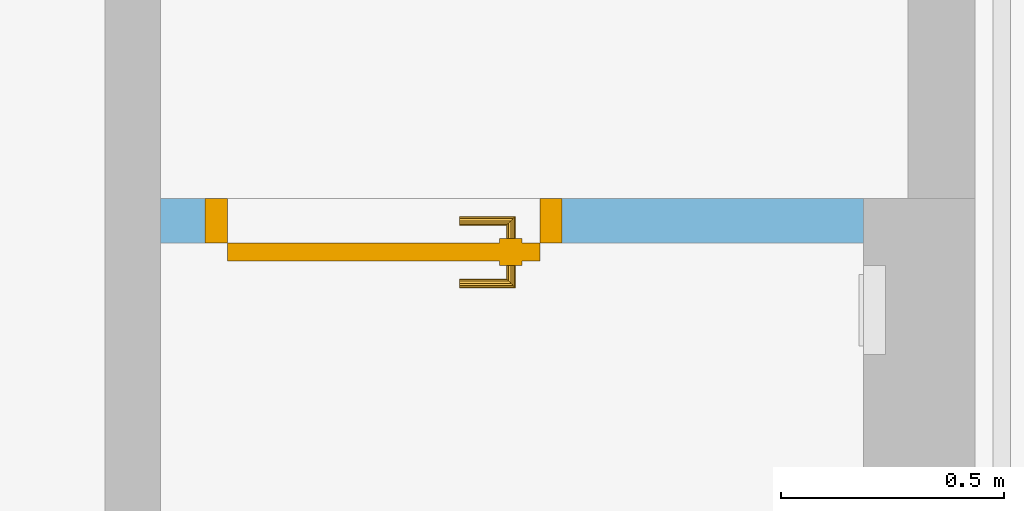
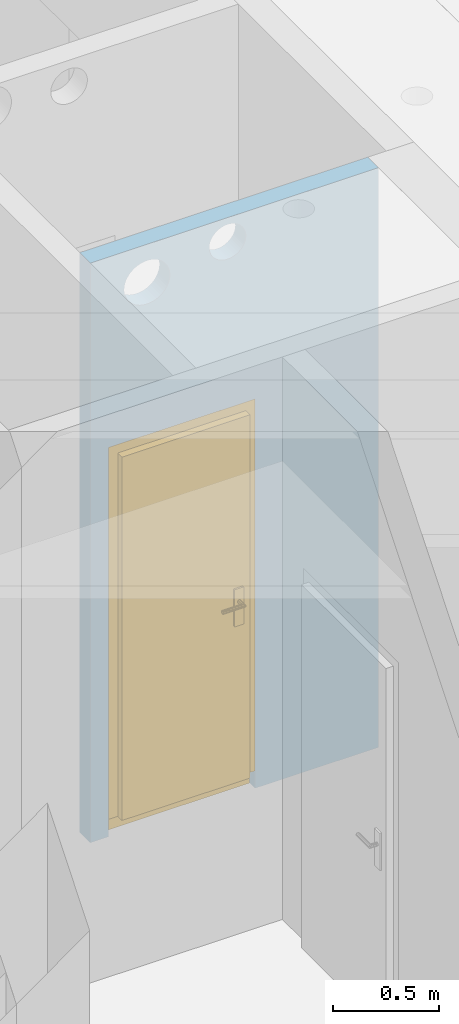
# One storey, part 74 of 140: 1 door, 3 openings, plus 1 element that does not belong to this part.
"""IFC4 building model written with IfcOpenShell, lengths in metres."""

from ifc_helpers import new_model, entity, si_unit, converted_unit, derived_unit, frame, frame_2d, origin, origin_with_axes, place, context, subcontext, project, spatial, polyline, rectangle, outline, extrude, closed_shell, open_shell, surface_model, source, transform, mapped, material, layer, layer_set, layer_usage, type_object, element, fill, save


model = new_model("IFC4")

# Units and contexts
model_context = context("Model", 3, precision=1e-05, world=origin())
body_context = subcontext(model_context, "Body", "Model", "MODEL_VIEW")
ifc_project = project(units=[si_unit("LENGTHUNIT", "METRE"), si_unit("AREAUNIT", "SQUARE_METRE"), si_unit("VOLUMEUNIT", "CUBIC_METRE"), si_unit("MASSUNIT", "GRAM", prefix="KILO"), converted_unit("PLANEANGLEUNIT", "DEGREE", entity("IfcPlaneAngleMeasure", 0.0174532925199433), si_unit("PLANEANGLEUNIT", "RADIAN"), dimensions=[0, 0, 0, 0, 0, 0, 0]), derived_unit("THERMALTRANSMITTANCEUNIT", [(si_unit("POWERUNIT", "WATT"), 1), (si_unit("THERMODYNAMICTEMPERATUREUNIT", "KELVIN"), -1), (si_unit("LENGTHUNIT", "METRE"), -2)]), derived_unit("VOLUMETRICFLOWRATEUNIT", [(si_unit("LENGTHUNIT", "METRE"), 3), (converted_unit("TIMEUNIT", "hour", entity("IfcTimeMeasure", 3600.0), si_unit("TIMEUNIT", "SECOND"), dimensions=[0, 0, 1, 0, 0, 0, 0]), -1), (si_unit("LENGTHUNIT", "METRE"), -1)])], contexts=[model_context])

# Site, building, storey
site_placement = place(None, origin())
site = spatial("IfcSite", under=ifc_project, at=site_placement, Name="3. ASŘ", CompositionType="ELEMENT")
building_placement = place(site_placement, origin())
building = spatial("IfcBuilding", under=site, at=building_placement, Name="Pavilon C", CompositionType="ELEMENT")
storey_placement = place(building_placement, origin())
storey = spatial("IfcBuildingStorey", under=building, at=storey_placement, Name="Půdorys 1.NP", CompositionType="ELEMENT", Elevation=0.0)

# Wall, openings, door
ifc_material = material(Name="SDK - 1 KCE + DVOJITÉ OPLÁŠTĚNÍ")
ifc_layer = layer(ifc_material, 0.0999999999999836)
ifc_layer_set = layer_set([ifc_layer])
ifc_layer_usage = layer_usage(ifc_layer_set, "AXIS2", "POSITIVE", -0.1)
wall_placement = place(storey_placement, frame((40.7, -13.125, -0.1), z_axis=(0.0, 0.0, 1.0), x_axis=(-1.0, -9.00832847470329e-14, 0.0)))
wall = element("IfcWall", 1, at=wall_placement, inside=storey, material=ifc_layer_usage, Name="SDK - 1 KCE + DVOJITÉ OPLÁŠTĚNÍ", context=body_context, shape_type="SweptSolid", body=[
    extrude(rectangle(XDim=1.575, YDim=0.0999999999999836, at=frame_2d((0.7875, 0.0499999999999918), x_axis=(1.0, 0.0))), origin_with_axes(), (0.0, 0.0, 1.0), 3.35),
])
opening_1_placement = place(wall_placement, frame((1.47500000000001, 0.0999999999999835, 0.0), z_axis=(-9.09494701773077e-14, -1.0, 0.0), x_axis=(0.0, 0.0, 1.0)))
opening_1 = element("IfcOpeningElement", 2, at=opening_1_placement, cuts=wall, Name="Dveřní otvor", ObjectType="Opening", context=body_context, shape_type="SweptSolid", body=[
    extrude(outline(polyline([(0.0, 0.8), (2.25, 0.8), (2.25, 0.0), (0.0, 0.0), (0.0, 0.8)])), origin_with_axes(), (0.0, 0.0, 1.0), 0.0999999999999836),
])
opening_2_placement = place(wall_placement, frame((1.14000005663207, -1.90214371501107e-14, 3.005), z_axis=(9.09494701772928e-14, 1.0, 0.0), x_axis=(0.0, 0.0, 1.0)))
element("IfcOpeningElement", 3, at=opening_2_placement, cuts=wall, Name="VZT", ObjectType="Opening", context=body_context, shape_type="SweptSolid", body=[
    extrude(outline(polyline([(0.12499999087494, 0.25), (0.138066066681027, 0.249315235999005), (0.150988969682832, 0.247268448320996), (0.163627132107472, 0.243882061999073), (0.175842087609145, 0.239193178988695), (0.187500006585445, 0.233253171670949), (0.198473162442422, 0.226127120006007), (0.208641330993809, 0.217893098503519), (0.217893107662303, 0.208641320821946), (0.226127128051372, 0.198473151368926), (0.233253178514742, 0.187499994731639), (0.239193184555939, 0.175842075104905), (0.243882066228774, 0.163627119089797), (0.247268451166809, 0.150988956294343), (0.249315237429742, 0.138066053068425), (0.25, 0.124999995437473), (0.249315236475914, 0.111933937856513), (0.247268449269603, 0.0990110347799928), (0.243882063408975, 0.0863728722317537), (0.239193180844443, 0.0741579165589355), (0.233253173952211, 0.0624999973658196), (0.226127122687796, 0.0515268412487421), (0.217893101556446, 0.041358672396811), (0.208641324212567, 0.0321068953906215), (0.198473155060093, 0.0238728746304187), (0.187499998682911, 0.0167468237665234), (0.175842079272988, 0.0108068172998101), (0.163627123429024, 0.00611793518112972), (0.150988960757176, 0.00273154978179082), (0.138066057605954, 0.000684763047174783), (0.125, 0.0), (0.111933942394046, 0.000684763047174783), (0.0990110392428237, 0.00273154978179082), (0.0863728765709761, 0.00611793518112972), (0.0741579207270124, 0.0108068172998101), (0.0625000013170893, 0.0167468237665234), (0.0515268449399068, 0.0238728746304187), (0.0413586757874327, 0.0321068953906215), (0.0321068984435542, 0.041358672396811), (0.0238728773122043, 0.0515268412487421), (0.0167468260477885, 0.0624999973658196), (0.0108068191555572, 0.0741579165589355), (0.00611793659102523, 0.0863728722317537), (0.00273155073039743, 0.0990110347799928), (0.000684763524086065, 0.111933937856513), (0.0, 0.124999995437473), (0.00068476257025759, 0.138066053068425), (0.00273154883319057, 0.150988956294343), (0.00611793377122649, 0.163627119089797), (0.0108068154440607, 0.175842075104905), (0.0167468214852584, 0.187499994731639), (0.0238728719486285, 0.198473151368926), (0.0321068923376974, 0.208641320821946), (0.0413586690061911, 0.217893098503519), (0.0515268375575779, 0.226127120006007), (0.0624999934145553, 0.233253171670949), (0.074157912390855, 0.239193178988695), (0.0863728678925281, 0.243882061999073), (0.0990110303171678, 0.247268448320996), (0.111933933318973, 0.249315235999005), (0.12499999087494, 0.25)])), origin_with_axes(), (0.0, 0.0, 1.0), 0.1),
])
opening_3_placement = place(wall_placement, frame((0.725, -5.28373112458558e-15, 3.11), z_axis=(8.98126018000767e-14, 1.0, 0.0), x_axis=(0.0, 0.0, 1.0)))
element("IfcOpeningElement", 4, at=opening_3_placement, cuts=wall, Name="ZTI", ObjectType="Opening", context=body_context, shape_type="SweptSolid", body=[
    extrude(outline(polyline([(0.0999999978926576, 0.2), (0.110452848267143, 0.199452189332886), (0.120791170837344, 0.197814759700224), (0.130901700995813, 0.195105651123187), (0.14067366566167, 0.191354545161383), (0.150000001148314, 0.186602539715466), (0.15877852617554, 0.180901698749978), (0.166913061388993, 0.174314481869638), (0.174314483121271, 0.166913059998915), (0.180901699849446, 0.158778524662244), (0.186602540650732, 0.149999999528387), (0.191354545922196, 0.140673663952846), (0.195105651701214, 0.130901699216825), (0.197814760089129, 0.120791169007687), (0.19945218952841, 0.110452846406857), (0.2, 0.100000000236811), (0.199452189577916, 0.0895471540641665), (0.197814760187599, 0.0792088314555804), (0.195105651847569, 0.0690983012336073), (0.191354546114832, 0.0593263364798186), (0.186602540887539, 0.0500000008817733), (0.180901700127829, 0.0412214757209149), (0.174314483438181, 0.0330869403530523), (0.166913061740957, 0.0256855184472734), (0.158778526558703, 0.0190983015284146), (0.150000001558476, 0.0133974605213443), (0.140673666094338, 0.00864545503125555), (0.130901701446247, 0.00489434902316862), (0.120791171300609, 0.00218524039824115), (0.110452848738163, 0.000547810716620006), (0.0999999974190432, 0.0), (0.0895471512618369, 0.000547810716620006), (0.0792088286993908, 0.00218524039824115), (0.069098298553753, 0.00489434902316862), (0.0593263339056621, 0.00864545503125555), (0.0499999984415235, 0.0133974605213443), (0.0412214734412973, 0.0190983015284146), (0.0330869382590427, 0.0256855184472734), (0.0256855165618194, 0.0330869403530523), (0.0190982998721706, 0.0412214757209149), (0.0133974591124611, 0.0500000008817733), (0.00864545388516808, 0.0593263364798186), (0.00489434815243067, 0.0690983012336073), (0.00218523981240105, 0.0792088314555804), (0.00054781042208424, 0.0895471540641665), (0.0, 0.100000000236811), (0.00054781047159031, 0.110452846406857), (0.00218523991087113, 0.120791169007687), (0.00489434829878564, 0.130901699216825), (0.00864545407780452, 0.140673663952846), (0.013397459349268, 0.149999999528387), (0.0190983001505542, 0.158778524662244), (0.0256855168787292, 0.166913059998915), (0.0330869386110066, 0.174314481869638), (0.0412214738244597, 0.180901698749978), (0.0499999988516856, 0.186602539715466), (0.0593263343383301, 0.191354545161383), (0.0690982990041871, 0.195105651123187), (0.0792088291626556, 0.197814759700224), (0.0895471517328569, 0.199452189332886), (0.0999999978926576, 0.2)])), origin_with_axes(), (0.0, 0.0, 1.0), 0.1),
])
door_type = type_object("IfcDoorType", Name="II.D12", OperationType="NOTDEFINED", ParameterTakesPrecedence=False, PredefinedType="DOOR")
shared_shape = source(origin_with_axes(), body_context, "Body", "SurfaceModel", [
    surface_model("IfcShellBasedSurfaceModel", [(0.0, 0.05, 0.0), (0.8, 0.05, 0.0), (0.8, 0.05, 0.1), (0.0, 0.05, 0.1)], [open_shell([[[0, 1, 2, 3]]], orient=[[False]])]),
    surface_model("IfcShellBasedSurfaceModel", [(0.0, 0.1, 2.25), (0.0, 0.1, 0.101), (0.05, 0.1, 0.101), (0.05, 0.1, 2.25), (0.0, 0.0, 0.101), (0.0, 2.70006239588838e-16, 2.25), (0.05, 2.70006239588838e-16, 2.25), (0.05, 0.0, 0.101)], [closed_shell([[[0, 1, 2, 3]], [[4, 5, 6, 7]], [[1, 0, 5, 4]], [[2, 1, 4, 7]], [[3, 2, 7, 6]], [[0, 3, 6, 5]]], orient=[[False], [False], [False], [False], [False], [False]])]),
    surface_model("IfcShellBasedSurfaceModel", [(0.75, 0.1, 2.25), (0.75, 0.1, 0.101), (0.8, 0.1, 0.101), (0.8, 0.1, 2.25), (0.75, 0.0, 0.101), (0.75, 2.70006239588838e-16, 2.25), (0.8, 2.70006239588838e-16, 2.25), (0.8, 0.0, 0.101)], [closed_shell([[[0, 1, 2, 3]], [[4, 5, 6, 7]], [[1, 0, 5, 4]], [[2, 1, 4, 7]], [[3, 2, 7, 6]], [[0, 3, 6, 5]]], orient=[[False], [False], [False], [False], [False], [False]])]),
    surface_model("IfcShellBasedSurfaceModel", [(0.05, 0.1, 2.25), (0.05, 0.1, 2.2), (0.75, 0.1, 2.2), (0.75, 0.1, 2.25), (0.05, 2.55795384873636e-16, 2.2), (0.05, 2.55795384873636e-16, 2.25), (0.75, 2.55795384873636e-16, 2.25), (0.75, 2.55795384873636e-16, 2.2)], [closed_shell([[[0, 1, 2, 3]], [[4, 5, 6, 7]], [[1, 0, 5, 4]], [[2, 1, 4, 7]], [[3, 2, 7, 6]], [[0, 3, 6, 5]]], orient=[[False], [False], [False], [False], [False], [False]])]),
    surface_model("IfcShellBasedSurfaceModel", [(0.05, 0.14, 2.2), (0.05, 0.14, 0.101), (0.75, 0.14, 0.101), (0.75, 0.14, 2.2), (0.05, 0.1, 0.101), (0.05, 0.1, 2.2), (0.75, 0.1, 2.2), (0.75, 0.1, 0.101)], [closed_shell([[[0, 1, 2, 3]], [[4, 5, 6, 7]], [[1, 0, 5, 4]], [[2, 1, 4, 7]], [[3, 2, 7, 6]], [[0, 3, 6, 5]]], orient=[[False], [False], [False], [False], [False], [False]])]),
    surface_model("IfcShellBasedSurfaceModel", [(0.66, 0.1, 1.226), (0.66, 0.1, 1.011), (0.71, 0.1, 1.011), (0.71, 0.1, 1.226), (0.66, 0.0900000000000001, 1.011), (0.66, 0.0900000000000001, 1.226), (0.71, 0.0900000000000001, 1.226), (0.71, 0.0900000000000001, 1.011)], [closed_shell([[[0, 1, 2, 3]], [[4, 5, 6, 7]], [[1, 0, 5, 4]], [[2, 1, 4, 7]], [[3, 2, 7, 6]], [[0, 3, 6, 5]]], orient=[[False], [False], [False], [False], [False], [False]])]),
    surface_model("IfcShellBasedSurfaceModel", [(0.685, 0.0900000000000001, 1.161), (0.68, 0.0900000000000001, 1.15966025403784), (0.676339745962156, 0.0900000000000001, 1.156), (0.675, 0.0900000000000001, 1.151), (0.676339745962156, 0.0900000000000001, 1.146), (0.68, 0.0900000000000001, 1.14233974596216), (0.685, 0.0900000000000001, 1.141), (0.69, 0.0900000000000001, 1.14233974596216), (0.693660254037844, 0.0900000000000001, 1.146), (0.695, 0.0900000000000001, 1.151), (0.693660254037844, 0.0900000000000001, 1.156), (0.69, 0.0900000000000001, 1.15966025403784), (0.69, 0.0450000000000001, 1.15966025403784), (0.685, 0.0500000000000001, 1.161), (0.693660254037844, 0.0413397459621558, 1.156), (0.695, 0.0400000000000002, 1.151), (0.693660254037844, 0.0413397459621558, 1.146), (0.69, 0.0450000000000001, 1.14233974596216), (0.685, 0.0500000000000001, 1.141), (0.68, 0.0550000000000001, 1.14233974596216), (0.676339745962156, 0.0586602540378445, 1.146), (0.675, 0.0600000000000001, 1.151), (0.676339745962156, 0.0586602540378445, 1.156), (0.68, 0.0550000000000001, 1.15966025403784), (0.57, 0.0450000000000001, 1.15966025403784), (0.57, 0.0500000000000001, 1.161), (0.57, 0.0413397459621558, 1.156), (0.57, 0.0400000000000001, 1.151), (0.57, 0.0413397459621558, 1.146), (0.57, 0.0450000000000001, 1.14233974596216), (0.57, 0.0500000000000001, 1.141), (0.57, 0.0550000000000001, 1.14233974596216), (0.57, 0.0586602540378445, 1.146), (0.57, 0.0600000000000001, 1.151), (0.57, 0.0586602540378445, 1.156), (0.57, 0.0550000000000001, 1.15966025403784)], [open_shell([[[0, 1, 2, 3, 4, 5, 6, 7, 8, 9, 10, 11]], [[0, 11, 12, 13]], [[11, 10, 14, 12]], [[10, 9, 15, 14]], [[9, 8, 16, 15]], [[8, 7, 17, 16]], [[7, 6, 18, 17]], [[6, 5, 19, 18]], [[5, 4, 20, 19]], [[4, 3, 21, 20]], [[3, 2, 22, 21]], [[2, 1, 23, 22]], [[1, 0, 13, 23]], [[13, 12, 24, 25]], [[12, 14, 26, 24]], [[14, 15, 27, 26]], [[15, 16, 28, 27]], [[16, 17, 29, 28]], [[17, 18, 30, 29]], [[18, 19, 31, 30]], [[19, 20, 32, 31]], [[20, 21, 33, 32]], [[21, 22, 34, 33]], [[22, 23, 35, 34]], [[23, 13, 25, 35]]], orient=[[False], [False], [False], [False], [False], [False], [False], [False], [False], [False], [False], [False], [False], [False], [False], [False], [False], [False], [False], [False], [False], [False], [False], [False], [False]])]),
    surface_model("IfcShellBasedSurfaceModel", [(0.66, 0.14, 1.226), (0.71, 0.14, 1.226), (0.71, 0.14, 1.011), (0.66, 0.14, 1.011), (0.66, 0.15, 1.011), (0.71, 0.15, 1.011), (0.71, 0.15, 1.226), (0.66, 0.15, 1.226)], [closed_shell([[[0, 1, 2, 3]], [[4, 5, 6, 7]], [[3, 4, 7, 0]], [[2, 5, 4, 3]], [[1, 6, 5, 2]], [[0, 7, 6, 1]]], orient=[[False], [False], [False], [False], [False], [False]])]),
    surface_model("IfcShellBasedSurfaceModel", [(0.685, 0.15, 1.161), (0.69, 0.15, 1.15966025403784), (0.693660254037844, 0.15, 1.156), (0.695, 0.15, 1.151), (0.693660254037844, 0.15, 1.146), (0.69, 0.15, 1.14233974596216), (0.685, 0.15, 1.141), (0.68, 0.15, 1.14233974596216), (0.676339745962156, 0.15, 1.146), (0.675, 0.15, 1.151), (0.676339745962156, 0.15, 1.156), (0.68, 0.15, 1.15966025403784), (0.685, 0.19, 1.161), (0.69, 0.195, 1.15966025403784), (0.693660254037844, 0.198660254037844, 1.156), (0.695, 0.2, 1.151), (0.693660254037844, 0.198660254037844, 1.146), (0.69, 0.195, 1.14233974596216), (0.685, 0.19, 1.141), (0.68, 0.185, 1.14233974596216), (0.676339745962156, 0.181339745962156, 1.146), (0.675, 0.18, 1.151), (0.676339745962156, 0.181339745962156, 1.156), (0.68, 0.185, 1.15966025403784), (0.57, 0.19, 1.161), (0.57, 0.195, 1.15966025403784), (0.57, 0.198660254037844, 1.156), (0.57, 0.2, 1.151), (0.57, 0.198660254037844, 1.146), (0.57, 0.195, 1.14233974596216), (0.57, 0.19, 1.141), (0.57, 0.185, 1.14233974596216), (0.57, 0.181339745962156, 1.146), (0.57, 0.18, 1.151), (0.57, 0.181339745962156, 1.156), (0.57, 0.185, 1.15966025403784)], [open_shell([[[0, 1, 2, 3, 4, 5, 6, 7, 8, 9, 10, 11]], [[0, 12, 13, 1]], [[1, 13, 14, 2]], [[2, 14, 15, 3]], [[3, 15, 16, 4]], [[4, 16, 17, 5]], [[5, 17, 18, 6]], [[6, 18, 19, 7]], [[7, 19, 20, 8]], [[8, 20, 21, 9]], [[9, 21, 22, 10]], [[10, 22, 23, 11]], [[11, 23, 12, 0]], [[12, 24, 25, 13]], [[13, 25, 26, 14]], [[14, 26, 27, 15]], [[15, 27, 28, 16]], [[16, 28, 29, 17]], [[17, 29, 30, 18]], [[18, 30, 31, 19]], [[19, 31, 32, 20]], [[20, 32, 33, 21]], [[21, 33, 34, 22]], [[22, 34, 35, 23]], [[23, 35, 24, 12]]], orient=[[False], [False], [False], [False], [False], [False], [False], [False], [False], [False], [False], [False], [False], [False], [False], [False], [False], [False], [False], [False], [False], [False], [False], [False], [False]])]),
])
door_placement = place(opening_1_placement, frame((0.0, 0.0, 0.100000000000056), z_axis=(1.0, 0.0, 0.0), x_axis=(0.0, 1.0, 7.43720750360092e-16)))
door = element("IfcDoor", 5, at=door_placement, inside=storey, type_object=door_type, Name="II.D12", OverallHeight=2.25, OverallWidth=0.8, context=body_context, shape_type="MappedRepresentation", body=[
    mapped(shared_shape, transform((0.0, 0.0, 0.0), x_axis=(1.0, 0.0, 0.0), y_axis=(0.0, -1.0, 0.0), z_axis=(0.0, 0.0, 1.0), scale=1.0)),
])
fill(opening_1, door)

save(model, "model.ifc")
